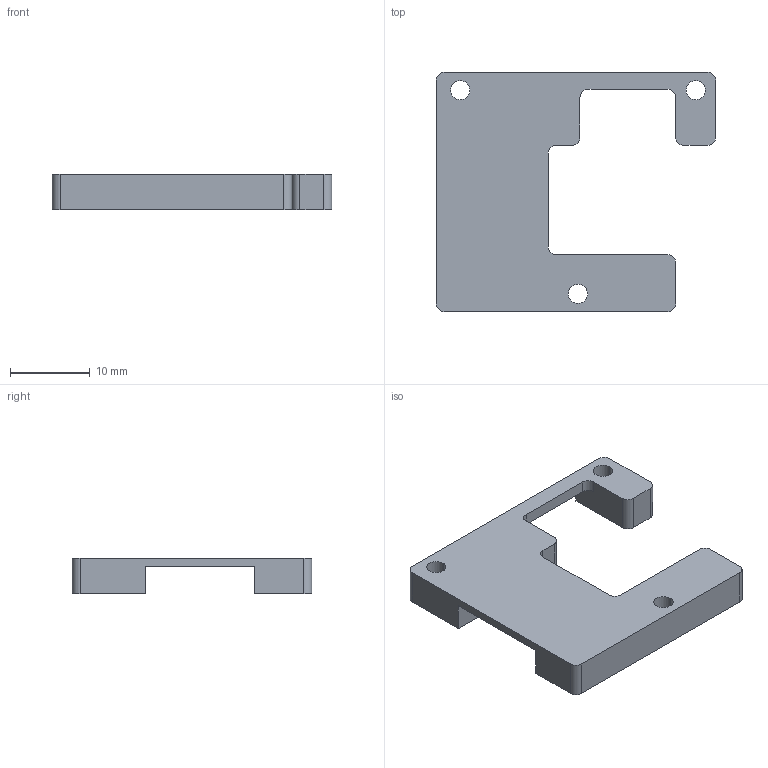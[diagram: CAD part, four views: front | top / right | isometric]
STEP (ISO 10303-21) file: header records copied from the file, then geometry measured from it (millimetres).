
FILE_DESCRIPTION (( 'STEP AP214' ), '1' );
FILE_NAME ('Pressure Sensor Board Top.STEP', '2023-03-29T19:45:31', ( '' ), ( '' ), 'SwSTEP 2.0', 'SolidWorks 2022', '' );
FILE_SCHEMA (( 'AUTOMOTIVE_DESIGN' ));
Length unit declared in the file: millimetre
Products named in the file (1): Pressure Sensor Board Top
Bounding box: 35 x 30 x 4.5 mm (x, y, z)
Volume: 2075 mm3; surface area: 2075.4 mm2
Topology: 1 solids, 1 shells, 36 faces, 102 edges, 68 vertices
Faces by surface type: cylinder 18, plane 18
Entity records: 1228 total; most frequent: DIRECTION 212, CARTESIAN_POINT 207, ORIENTED_EDGE 204, EDGE_CURVE 102, AXIS2_PLACEMENT_3D 73, VERTEX_POINT 68, LINE 66, VECTOR 66
